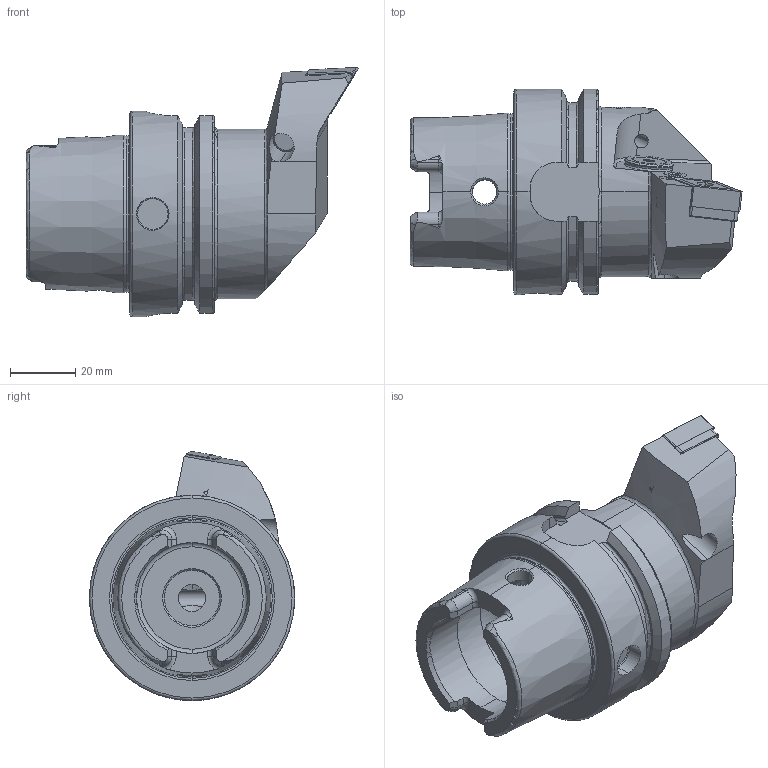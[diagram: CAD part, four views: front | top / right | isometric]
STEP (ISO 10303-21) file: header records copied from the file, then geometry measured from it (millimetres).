
FILE_DESCRIPTION (( 'STEP AP214' ), '1' );
FILE_NAME ('HA6.PDF.LJA.070-HP.STEP', '2020-09-17T07:08:17', ( '' ), ( '' ), 'SwSTEP 2.0', 'SolidWorks 2017', '' );
FILE_SCHEMA (( 'AUTOMOTIVE_DESIGN' ));
Length unit declared in the file: millimetre
Products named in the file (13): DNMG150604; HA6-PDF.LJA.070-HP_B; DIN 7991 - M5x15; WCD-ER4.101.017_A; WCD-ER1.101.000; WDF-ER3.101.000_A; HA6.PDF.LJA.070-HP; DIN 3771 - 13x1; WDF-ER2.101.003_A; CHP-ER1.015.006_A; ISO 8752 2x8; CHP-ER1.015.006; CHP-ER1.008.014_A
Assembly tree (12 placements, depth 3):
  HA6.PDF.LJA.070-HP
    HA6-PDF.LJA.070-HP_B
    DNMG150604
    WDF-ER3.101.000_A
    WCD-ER1.101.000
    WCD-ER4.101.017_A
    WDF-ER2.101.003_A
    CHP-ER1.008.014_A
    ISO 8752 2x8
    CHP-ER1.015.006
      CHP-ER1.015.006_A
      DIN 3771 - 13x1
      DIN 7991 - M5x15
Bounding box: 101.9 x 63 x 76.5 mm (x, y, z)
Volume: 141678.6 mm3; surface area: 35556.7 mm2
Topology: 11 solids, 11 shells, 502 faces, 1264 edges, 769 vertices
Faces by surface type: plane 161, cylinder 137, cone 122, torus 58, bspline 24
Entity records: 18454 total; most frequent: CARTESIAN_POINT 5635, ORIENTED_EDGE 2492, DIRECTION 2382, EDGE_CURVE 1246, AXIS2_PLACEMENT_3D 936, VERTEX_POINT 769, EDGE_LOOP 529, LINE 510
